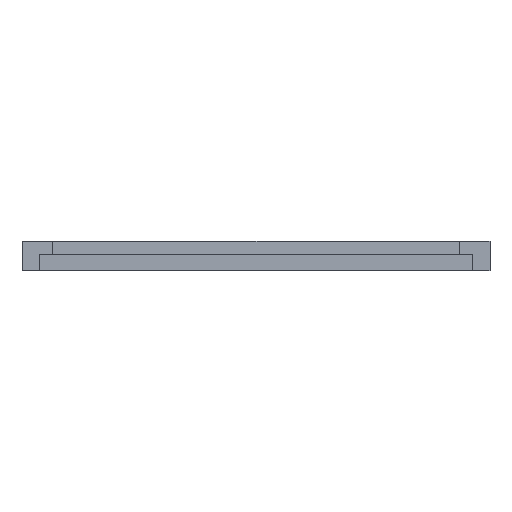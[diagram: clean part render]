
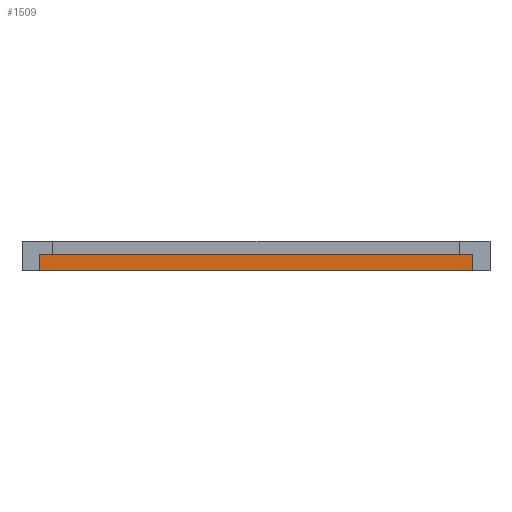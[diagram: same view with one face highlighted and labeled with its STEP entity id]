
A CAD part, left-side view. The second image highlights one B-rep face of the part: STEP entity #1509.
In plain terms, the highlighted free-form (B-spline) face has degree [1, 1] with [2, 2] control points.
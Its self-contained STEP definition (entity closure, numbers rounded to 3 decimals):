
#31 = B_SPLINE_SURFACE_WITH_KNOTS('',1,1,(
    (#32,#33)
    ,(#34,#35
    )),.UNSPECIFIED.,.F.,.F.,.F.,(2,2),(2,2),(-1096.297,
    1294.766),(-1116.87,1116.87),
  .PIECEWISE_BEZIER_KNOTS.);
#32 = CARTESIAN_POINT('',(59.952,-2.642,
    26.4));
#33 = CARTESIAN_POINT('',(59.952,54.095,
    26.4));
#34 = CARTESIAN_POINT('',(-0.781,-2.642,
    26.4));
#35 = CARTESIAN_POINT('',(-0.781,54.095,
    26.4));
#654 = VERTEX_POINT('',#655);
#655 = CARTESIAN_POINT('',(-0.781,-0.542,
    26.4));
#667 = B_SPLINE_SURFACE_WITH_KNOTS('',1,1,(
    (#668,#669)
    ,(#670,#671
    )),.UNSPECIFIED.,.F.,.F.,.F.,(2,2),(2,2),(0.,2312.323),(-78.74,
    0.),.PIECEWISE_BEZIER_KNOTS.);
#668 = CARTESIAN_POINT('',(-0.781,-0.542,
    28.4));
#669 = CARTESIAN_POINT('',(-0.781,-0.542,
    26.4));
#670 = CARTESIAN_POINT('',(57.952,-0.542,
    28.4));
#671 = CARTESIAN_POINT('',(57.952,-0.542,
    26.4));
#678 = EDGE_CURVE('',#679,#654,#681,.T.);
#679 = VERTEX_POINT('',#680);
#680 = CARTESIAN_POINT('',(-0.781,51.995,
    26.4));
#681 = SURFACE_CURVE('',#682,(#685,#691),.PCURVE_S1.);
#682 = B_SPLINE_CURVE_WITH_KNOTS('',1,(#683,#684),.UNSPECIFIED.,.F.,.F.,
  (2,2),(0.,2068.386),.PIECEWISE_BEZIER_KNOTS.);
#683 = CARTESIAN_POINT('',(-0.781,51.995,
    26.4));
#684 = CARTESIAN_POINT('',(-0.781,-0.542,
    26.4));
#685 = PCURVE('',#31,#686);
#686 = DEFINITIONAL_REPRESENTATION('',(#687),#690);
#687 = B_SPLINE_CURVE_WITH_KNOTS('',1,(#688,#689),.UNSPECIFIED.,.F.,.F.,
  (2,2),(0.,2068.386),.PIECEWISE_BEZIER_KNOTS.);
#688 = CARTESIAN_POINT('',(1294.766,1034.193));
#689 = CARTESIAN_POINT('',(1294.766,-1034.193));
#690 = ( GEOMETRIC_REPRESENTATION_CONTEXT(2) 
PARAMETRIC_REPRESENTATION_CONTEXT() REPRESENTATION_CONTEXT('2D SPACE',''
  ) );
#691 = PCURVE('',#692,#697);
#692 = B_SPLINE_SURFACE_WITH_KNOTS('',1,1,(
    (#693,#694)
    ,(#695,#696
    )),.UNSPECIFIED.,.F.,.F.,.F.,(2,2),(2,2),(0.,2068.386),(-78.74,
    0.),.PIECEWISE_BEZIER_KNOTS.);
#693 = CARTESIAN_POINT('',(-0.781,51.995,
    28.4));
#694 = CARTESIAN_POINT('',(-0.781,51.995,
    26.4));
#695 = CARTESIAN_POINT('',(-0.781,-0.542,
    28.4));
#696 = CARTESIAN_POINT('',(-0.781,-0.542,
    26.4));
#697 = DEFINITIONAL_REPRESENTATION('',(#698),#701);
#698 = B_SPLINE_CURVE_WITH_KNOTS('',1,(#699,#700),.UNSPECIFIED.,.F.,.F.,
  (2,2),(0.,2068.386),.PIECEWISE_BEZIER_KNOTS.);
#699 = CARTESIAN_POINT('',(0.,0.));
#700 = CARTESIAN_POINT('',(2068.386,0.));
#701 = ( GEOMETRIC_REPRESENTATION_CONTEXT(2) 
PARAMETRIC_REPRESENTATION_CONTEXT() REPRESENTATION_CONTEXT('2D SPACE',''
  ) );
#717 = B_SPLINE_SURFACE_WITH_KNOTS('',1,1,(
    (#718,#719)
    ,(#720,#721
    )),.UNSPECIFIED.,.F.,.F.,.F.,(2,2),(2,2),(78.74,2391.063),(
    -78.74,0.),.PIECEWISE_BEZIER_KNOTS.);
#718 = CARTESIAN_POINT('',(57.952,51.995,
    28.4));
#719 = CARTESIAN_POINT('',(57.952,51.995,
    26.4));
#720 = CARTESIAN_POINT('',(-0.781,51.995,
    28.4));
#721 = CARTESIAN_POINT('',(-0.781,51.995,
    26.4));
#1447 = EDGE_CURVE('',#654,#1448,#1450,.T.);
#1448 = VERTEX_POINT('',#1449);
#1449 = CARTESIAN_POINT('',(-0.781,-0.542,
    28.4));
#1450 = SURFACE_CURVE('',#1451,(#1454,#1460),.PCURVE_S1.);
#1451 = B_SPLINE_CURVE_WITH_KNOTS('',1,(#1452,#1453),.UNSPECIFIED.,.F.,
  .F.,(2,2),(0.,78.74),.PIECEWISE_BEZIER_KNOTS.);
#1452 = CARTESIAN_POINT('',(-0.781,-0.542,
    26.4));
#1453 = CARTESIAN_POINT('',(-0.781,-0.542,
    28.4));
#1454 = PCURVE('',#667,#1455);
#1455 = DEFINITIONAL_REPRESENTATION('',(#1456),#1459);
#1456 = B_SPLINE_CURVE_WITH_KNOTS('',1,(#1457,#1458),.UNSPECIFIED.,.F.,
  .F.,(2,2),(0.,78.74),.PIECEWISE_BEZIER_KNOTS.);
#1457 = CARTESIAN_POINT('',(0.,0.));
#1458 = CARTESIAN_POINT('',(0.,-78.74));
#1459 = ( GEOMETRIC_REPRESENTATION_CONTEXT(2) 
PARAMETRIC_REPRESENTATION_CONTEXT() REPRESENTATION_CONTEXT('2D SPACE',''
  ) );
#1460 = PCURVE('',#692,#1461);
#1461 = DEFINITIONAL_REPRESENTATION('',(#1462),#1465);
#1462 = B_SPLINE_CURVE_WITH_KNOTS('',1,(#1463,#1464),.UNSPECIFIED.,.F.,
  .F.,(2,2),(0.,78.74),.PIECEWISE_BEZIER_KNOTS.);
#1463 = CARTESIAN_POINT('',(2068.386,0.));
#1464 = CARTESIAN_POINT('',(2068.386,-78.74));
#1465 = ( GEOMETRIC_REPRESENTATION_CONTEXT(2) 
PARAMETRIC_REPRESENTATION_CONTEXT() REPRESENTATION_CONTEXT('2D SPACE',''
  ) );
#1481 = B_SPLINE_SURFACE_WITH_KNOTS('',1,1,(
    (#1482,#1483)
    ,(#1484,#1485
    )),.UNSPECIFIED.,.F.,.F.,.F.,(2,2),(2,2),(-1195.532,
    1116.791),(-1034.193,1034.193),
  .PIECEWISE_BEZIER_KNOTS.);
#1482 = CARTESIAN_POINT('',(-0.781,-0.542,
    28.4));
#1483 = CARTESIAN_POINT('',(-0.781,51.995,
    28.4));
#1484 = CARTESIAN_POINT('',(57.952,-0.542,
    28.4));
#1485 = CARTESIAN_POINT('',(57.952,51.995,
    28.4));
#1509 = ADVANCED_FACE('',(#1510),#692,.F.);
#1510 = FACE_BOUND('',#1511,.F.);
#1511 = EDGE_LOOP('',(#1512,#1532,#1550,#1551));
#1512 = ORIENTED_EDGE('',*,*,#1513,.T.);
#1513 = EDGE_CURVE('',#679,#1514,#1516,.T.);
#1514 = VERTEX_POINT('',#1515);
#1515 = CARTESIAN_POINT('',(-0.781,51.995,
    28.4));
#1516 = SURFACE_CURVE('',#1517,(#1520,#1526),.PCURVE_S1.);
#1517 = B_SPLINE_CURVE_WITH_KNOTS('',1,(#1518,#1519),.UNSPECIFIED.,.F.,
  .F.,(2,2),(0.,78.74),.PIECEWISE_BEZIER_KNOTS.);
#1518 = CARTESIAN_POINT('',(-0.781,51.995,
    26.4));
#1519 = CARTESIAN_POINT('',(-0.781,51.995,
    28.4));
#1520 = PCURVE('',#692,#1521);
#1521 = DEFINITIONAL_REPRESENTATION('',(#1522),#1525);
#1522 = B_SPLINE_CURVE_WITH_KNOTS('',1,(#1523,#1524),.UNSPECIFIED.,.F.,
  .F.,(2,2),(0.,78.74),.PIECEWISE_BEZIER_KNOTS.);
#1523 = CARTESIAN_POINT('',(0.,0.));
#1524 = CARTESIAN_POINT('',(0.,-78.74));
#1525 = ( GEOMETRIC_REPRESENTATION_CONTEXT(2) 
PARAMETRIC_REPRESENTATION_CONTEXT() REPRESENTATION_CONTEXT('2D SPACE',''
  ) );
#1526 = PCURVE('',#717,#1527);
#1527 = DEFINITIONAL_REPRESENTATION('',(#1528),#1531);
#1528 = B_SPLINE_CURVE_WITH_KNOTS('',1,(#1529,#1530),.UNSPECIFIED.,.F.,
  .F.,(2,2),(0.,78.74),.PIECEWISE_BEZIER_KNOTS.);
#1529 = CARTESIAN_POINT('',(2391.063,0.));
#1530 = CARTESIAN_POINT('',(2391.063,-78.74));
#1531 = ( GEOMETRIC_REPRESENTATION_CONTEXT(2) 
PARAMETRIC_REPRESENTATION_CONTEXT() REPRESENTATION_CONTEXT('2D SPACE',''
  ) );
#1532 = ORIENTED_EDGE('',*,*,#1533,.T.);
#1533 = EDGE_CURVE('',#1514,#1448,#1534,.T.);
#1534 = SURFACE_CURVE('',#1535,(#1538,#1544),.PCURVE_S1.);
#1535 = B_SPLINE_CURVE_WITH_KNOTS('',1,(#1536,#1537),.UNSPECIFIED.,.F.,
  .F.,(2,2),(0.,2068.386),.PIECEWISE_BEZIER_KNOTS.);
#1536 = CARTESIAN_POINT('',(-0.781,51.995,
    28.4));
#1537 = CARTESIAN_POINT('',(-0.781,-0.542,
    28.4));
#1538 = PCURVE('',#692,#1539);
#1539 = DEFINITIONAL_REPRESENTATION('',(#1540),#1543);
#1540 = B_SPLINE_CURVE_WITH_KNOTS('',1,(#1541,#1542),.UNSPECIFIED.,.F.,
  .F.,(2,2),(0.,2068.386),.PIECEWISE_BEZIER_KNOTS.);
#1541 = CARTESIAN_POINT('',(0.,-78.74));
#1542 = CARTESIAN_POINT('',(2068.386,-78.74));
#1543 = ( GEOMETRIC_REPRESENTATION_CONTEXT(2) 
PARAMETRIC_REPRESENTATION_CONTEXT() REPRESENTATION_CONTEXT('2D SPACE',''
  ) );
#1544 = PCURVE('',#1481,#1545);
#1545 = DEFINITIONAL_REPRESENTATION('',(#1546),#1549);
#1546 = B_SPLINE_CURVE_WITH_KNOTS('',1,(#1547,#1548),.UNSPECIFIED.,.F.,
  .F.,(2,2),(0.,2068.386),.PIECEWISE_BEZIER_KNOTS.);
#1547 = CARTESIAN_POINT('',(-1195.532,1034.193));
#1548 = CARTESIAN_POINT('',(-1195.532,-1034.193));
#1549 = ( GEOMETRIC_REPRESENTATION_CONTEXT(2) 
PARAMETRIC_REPRESENTATION_CONTEXT() REPRESENTATION_CONTEXT('2D SPACE',''
  ) );
#1550 = ORIENTED_EDGE('',*,*,#1447,.F.);
#1551 = ORIENTED_EDGE('',*,*,#678,.F.);
